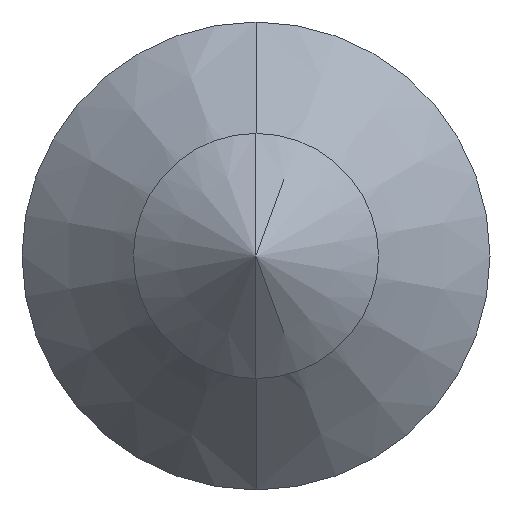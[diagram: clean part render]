
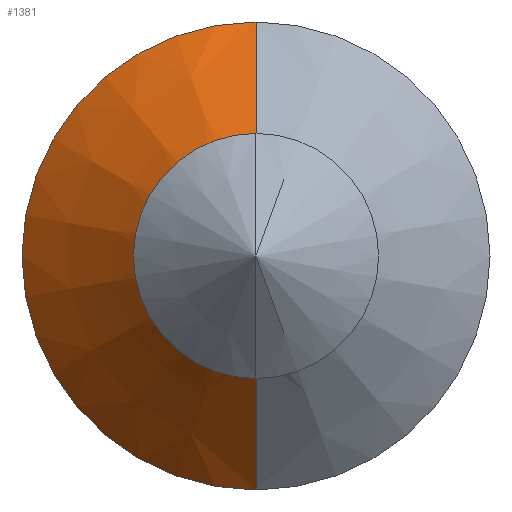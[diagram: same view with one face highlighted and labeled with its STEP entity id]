
A CAD part, left-side view. The second image highlights one B-rep face of the part: STEP entity #1381.
In plain terms, the highlighted conical face has half-angle 44.669 degrees and reference radius 2.1 mm.
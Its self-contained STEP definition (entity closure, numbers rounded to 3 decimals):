
#44 = AXIS2_PLACEMENT_3D ( 'NONE', #1471, #1531, #1542 ) ;
#126 = CARTESIAN_POINT ( 'NONE',  ( -0.255, 0., -2.1 ) ) ;
#241 = CARTESIAN_POINT ( 'NONE',  ( -1.469, 0., -0.9 ) ) ;
#508 = CONICAL_SURFACE ( 'NONE', #44, 2.1, 0.78 ) ;
#757 = CARTESIAN_POINT ( 'NONE',  ( -1.469, 0., 0.9 ) ) ;
#770 = CIRCLE ( 'NONE', #1532, 0.9 ) ;
#806 = DIRECTION ( 'NONE',  ( 0., 0., 1. ) ) ;
#809 = ORIENTED_EDGE ( 'NONE', *, *, #2324, .F. ) ;
#851 = AXIS2_PLACEMENT_3D ( 'NONE', #2655, #2791, #2605 ) ;
#967 = DIRECTION ( 'NONE',  ( -1., 0., 0. ) ) ;
#1005 = DIRECTION ( 'NONE',  ( 0.711, 0., 0.703 ) ) ;
#1016 = CARTESIAN_POINT ( 'NONE',  ( -0.255, 0., 2.1 ) ) ;
#1096 = CARTESIAN_POINT ( 'NONE',  ( -0.255, 0., 2.1 ) ) ;
#1107 = ORIENTED_EDGE ( 'NONE', *, *, #1920, .T. ) ;
#1287 = VERTEX_POINT ( 'NONE', #241 ) ;
#1381 = ADVANCED_FACE ( 'NONE', ( #1601 ), #508, .T. ) ;
#1401 = VERTEX_POINT ( 'NONE', #1096 ) ;
#1471 = CARTESIAN_POINT ( 'NONE',  ( -0.255, 0., 0. ) ) ;
#1531 = DIRECTION ( 'NONE',  ( 1., 0., 0. ) ) ;
#1532 = AXIS2_PLACEMENT_3D ( 'NONE', #1552, #967, #806 ) ;
#1542 = DIRECTION ( 'NONE',  ( 0., 0., -1. ) ) ;
#1552 = CARTESIAN_POINT ( 'NONE',  ( -1.469, 0., 0. ) ) ;
#1586 = EDGE_CURVE ( 'NONE', #1287, #2493, #2040, .T. ) ;
#1601 = FACE_OUTER_BOUND ( 'NONE', #1708, .T. ) ;
#1708 = EDGE_LOOP ( 'NONE', ( #809, #1107, #2566, #2673 ) ) ;
#1920 = EDGE_CURVE ( 'NONE', #2017, #1401, #2827, .T. ) ;
#2017 = VERTEX_POINT ( 'NONE', #757 ) ;
#2040 = LINE ( 'NONE', #2265, #2066 ) ;
#2066 = VECTOR ( 'NONE', #2274, 1000. ) ;
#2265 = CARTESIAN_POINT ( 'NONE',  ( -0.255, 0., -2.1 ) ) ;
#2274 = DIRECTION ( 'NONE',  ( 0.711, 0., -0.703 ) ) ;
#2324 = EDGE_CURVE ( 'NONE', #2017, #1287, #770, .T. ) ;
#2493 = VERTEX_POINT ( 'NONE', #126 ) ;
#2504 = EDGE_CURVE ( 'NONE', #1401, #2493, #2817, .T. ) ;
#2566 = ORIENTED_EDGE ( 'NONE', *, *, #2504, .T. ) ;
#2605 = DIRECTION ( 'NONE',  ( 0., 0., 1. ) ) ;
#2655 = CARTESIAN_POINT ( 'NONE',  ( -0.255, 0., 0. ) ) ;
#2673 = ORIENTED_EDGE ( 'NONE', *, *, #1586, .F. ) ;
#2753 = VECTOR ( 'NONE', #1005, 1000. ) ;
#2791 = DIRECTION ( 'NONE',  ( -1., 0., 0. ) ) ;
#2817 = CIRCLE ( 'NONE', #851, 2.1 ) ;
#2827 = LINE ( 'NONE', #1016, #2753 ) ;
